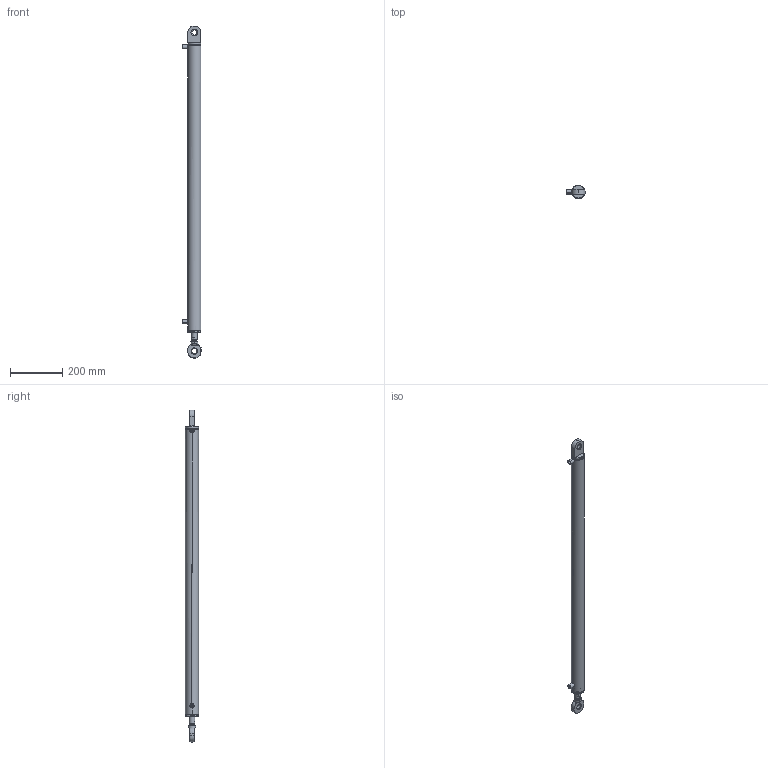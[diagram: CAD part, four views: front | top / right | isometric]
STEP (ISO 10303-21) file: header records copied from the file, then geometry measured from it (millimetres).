
FILE_DESCRIPTION (( 'STEP AP214' ), '1' );
FILE_NAME ('HC_A_40_22_1000_ÖAMB_WEB.STEP', '2021-05-25T15:56:13', ( '' ), ( '' ), 'SwSTEP 2.0', 'SolidWorks 2021', '' );
FILE_SCHEMA (( 'AUTOMOTIVE_DESIGN' ));
Length unit declared in the file: millimetre
Products named in the file (10): RMY__RMY_20; TAK_TAK_40_50; TDK_TDK_40_22; G1-4_Manson; HC_A_40_BORU_WEB; RMK_RMK 20; KO-36X3; HC_A_40_22_1000_淲MB_WEB; HC_A_22_K_MIL_WEB
Assembly tree (10 placements, depth 3):
  HC_A_40_22_1000_淲MB_WEB
    HC_A_40_BORU_WEB
    HC_A_22_K_MIL_WEB
    TAK_TAK_40_50
    G1-4_Manson  x2
    TDK_TDK_40_22
      TDK_TDK_40_22
      KO-36X3
    RMK_RMK 20
    RMY__RMY_20
Bounding box: 71.2 x 50 x 1271.5 mm (x, y, z)
Volume: 950408.7 mm3; surface area: 360407.8 mm2
Topology: 9 solids, 9 shells, 325 faces, 808 edges, 509 vertices
Faces by surface type: plane 117, bspline 85, cylinder 73, cone 42, torus 8
Entity records: 15755 total; most frequent: CARTESIAN_POINT 6503, ORIENTED_EDGE 1592, DIRECTION 1300, EDGE_CURVE 796, VERTEX_POINT 501, AXIS2_PLACEMENT_3D 461, VECTOR 378, LINE 378
